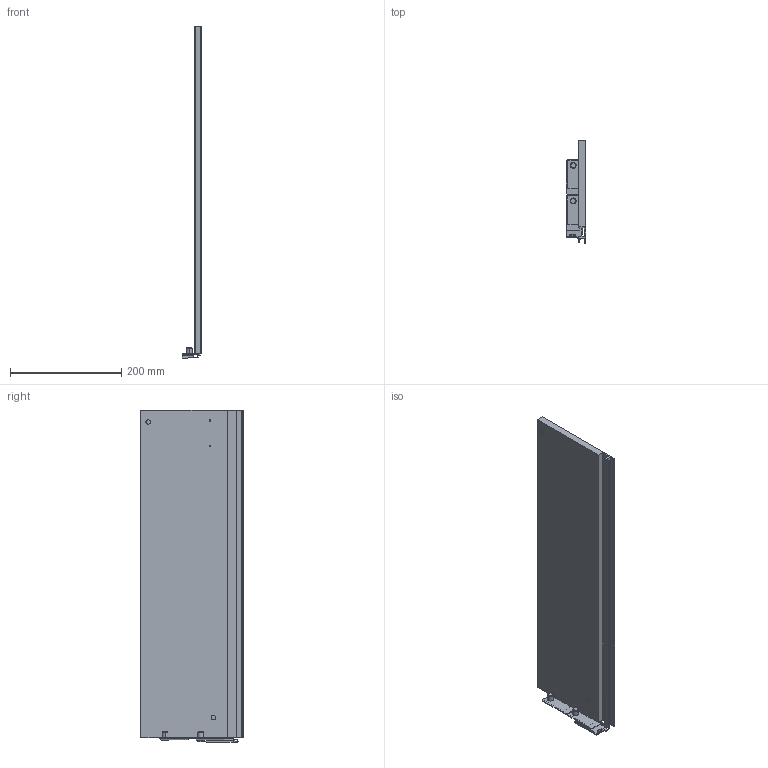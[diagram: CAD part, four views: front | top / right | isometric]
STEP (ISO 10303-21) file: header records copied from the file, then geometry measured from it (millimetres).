
FILE_DESCRIPTION (( 'STEP AP214' ), '1' );
FILE_NAME ('Vionaro_Alu-Zarge_H185_NL600_RE.STEP', '2014-08-20T15:07:40', ( '' ), ( '' ), 'SwSTEP 2.0', 'SolidWorks 2013', '' );
FILE_SCHEMA (( 'AUTOMOTIVE_DESIGN' ));
Length unit declared in the file: millimetre
Products named in the file (1): Vionaro_Alu-Zarge_H185_NL600_RE
Bounding box: 35.6 x 185 x 597.9 mm (x, y, z)
Volume: 1275985.7 mm3; surface area: 271765.4 mm2
Topology: 1 solids, 1 shells, 136 faces, 356 edges, 233 vertices
Faces by surface type: plane 96, cylinder 32, cone 8
Entity records: 4187 total; most frequent: CARTESIAN_POINT 732, ORIENTED_EDGE 712, DIRECTION 701, EDGE_CURVE 356, VECTOR 281, LINE 281, VERTEX_POINT 233, AXIS2_PLACEMENT_3D 210
